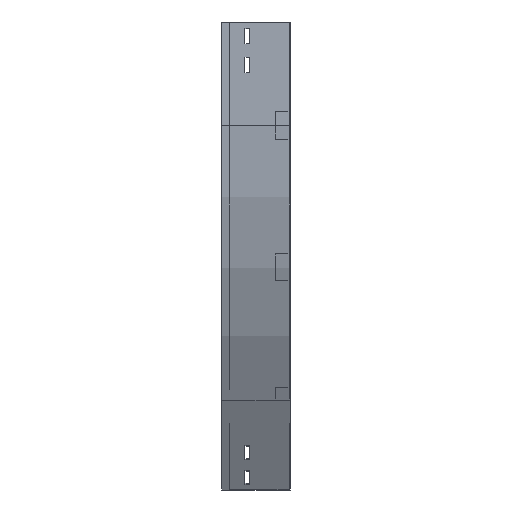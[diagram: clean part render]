
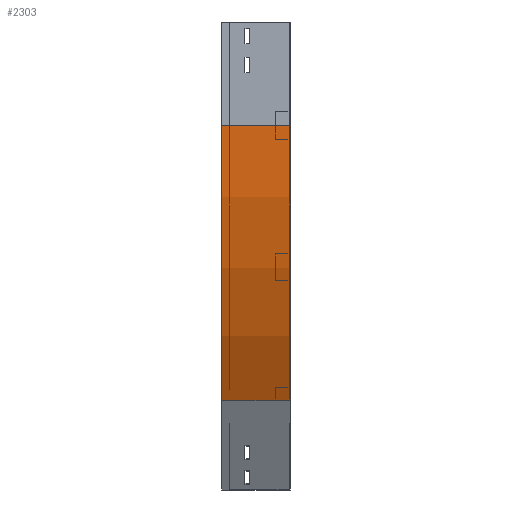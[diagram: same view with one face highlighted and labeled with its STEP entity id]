
A CAD part, left-side view. The second image highlights one B-rep face of the part: STEP entity #2303.
In plain terms, the highlighted cylindrical face has radius 800 mm (diameter 1600 mm), a partial arc.
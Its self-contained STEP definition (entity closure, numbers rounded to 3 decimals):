
#192 = EDGE_CURVE ( 'NONE', #1122, #1954, #3536, .T. ) ;
#205 = DIRECTION ( 'NONE',  ( 0., 0., -1. ) ) ;
#441 = VECTOR ( 'NONE', #2667, 1000. ) ;
#454 = EDGE_LOOP ( 'NONE', ( #2428, #886, #3821, #1214 ) ) ;
#567 = AXIS2_PLACEMENT_3D ( 'NONE', #3459, #2870, #205 ) ;
#750 = FACE_OUTER_BOUND ( 'NONE', #454, .T. ) ;
#870 = CARTESIAN_POINT ( 'NONE',  ( 107.18, 0., -550. ) ) ;
#886 = ORIENTED_EDGE ( 'NONE', *, *, #1939, .F. ) ;
#1122 = VERTEX_POINT ( 'NONE', #3366 ) ;
#1134 = VERTEX_POINT ( 'NONE', #3198 ) ;
#1214 = ORIENTED_EDGE ( 'NONE', *, *, #192, .T. ) ;
#1355 = VECTOR ( 'NONE', #2385, 1000. ) ;
#1409 = AXIS2_PLACEMENT_3D ( 'NONE', #2758, #2453, #3610 ) ;
#1601 = EDGE_CURVE ( 'NONE', #2904, #1122, #2784, .T. ) ;
#1825 = AXIS2_PLACEMENT_3D ( 'NONE', #2450, #1887, #3629 ) ;
#1887 = DIRECTION ( 'NONE',  ( 0., -1., 0. ) ) ;
#1939 = EDGE_CURVE ( 'NONE', #2904, #1134, #2172, .T. ) ;
#1954 = VERTEX_POINT ( 'NONE', #3298 ) ;
#2172 = LINE ( 'NONE', #3563, #1355 ) ;
#2173 = CARTESIAN_POINT ( 'NONE',  ( 0., 100., -150. ) ) ;
#2303 = ADVANCED_FACE ( 'NONE', ( #750 ), #3749, .T. ) ;
#2385 = DIRECTION ( 'NONE',  ( 0., -1., 0. ) ) ;
#2428 = ORIENTED_EDGE ( 'NONE', *, *, #3706, .F. ) ;
#2450 = CARTESIAN_POINT ( 'NONE',  ( 800., 0., -150. ) ) ;
#2453 = DIRECTION ( 'NONE',  ( 0., -1., 0. ) ) ;
#2667 = DIRECTION ( 'NONE',  ( 0., -1., 0. ) ) ;
#2758 = CARTESIAN_POINT ( 'NONE',  ( 800., 100., -150. ) ) ;
#2784 = CIRCLE ( 'NONE', #1409, 800. ) ;
#2870 = DIRECTION ( 'NONE',  ( 0., -1., 0. ) ) ;
#2904 = VERTEX_POINT ( 'NONE', #2173 ) ;
#3198 = CARTESIAN_POINT ( 'NONE',  ( 0., 0., -150. ) ) ;
#3298 = CARTESIAN_POINT ( 'NONE',  ( 107.18, 0., -550. ) ) ;
#3366 = CARTESIAN_POINT ( 'NONE',  ( 107.18, 100., -550. ) ) ;
#3459 = CARTESIAN_POINT ( 'NONE',  ( 800., 0., -150. ) ) ;
#3494 = CIRCLE ( 'NONE', #1825, 800. ) ;
#3536 = LINE ( 'NONE', #870, #441 ) ;
#3563 = CARTESIAN_POINT ( 'NONE',  ( 0., 0., -150. ) ) ;
#3610 = DIRECTION ( 'NONE',  ( -1., 0., 0. ) ) ;
#3629 = DIRECTION ( 'NONE',  ( -1., 0., 0. ) ) ;
#3706 = EDGE_CURVE ( 'NONE', #1134, #1954, #3494, .T. ) ;
#3749 = CYLINDRICAL_SURFACE ( 'NONE', #567, 800. ) ;
#3821 = ORIENTED_EDGE ( 'NONE', *, *, #1601, .T. ) ;
